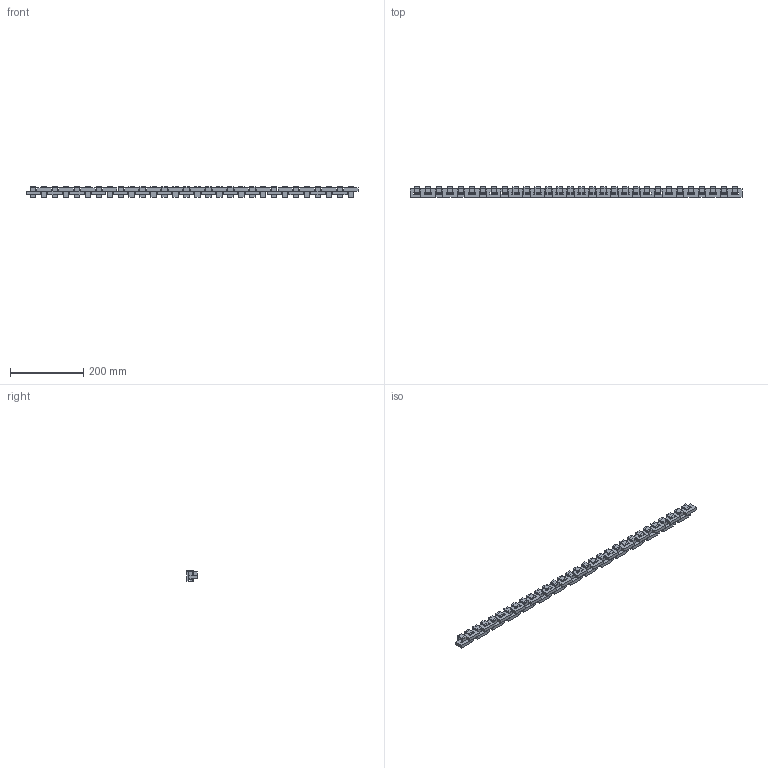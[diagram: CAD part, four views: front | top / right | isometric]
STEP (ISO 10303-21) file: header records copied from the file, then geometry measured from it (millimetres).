
FILE_DESCRIPTION(('Open CASCADE Model'),'2;1');
FILE_NAME('Open CASCADE Shape Model','2026-08-13T21:24:41',('Author'),( 'Open CASCADE'),'Open CASCADE STEP processor 7.7','Open CASCADE 7.7' ,'Unknown');
FILE_SCHEMA(('AUTOMOTIVE_DESIGN { 1 0 10303 214 1 1 1 1 }'));
Length unit declared in the file: millimetre
Products named in the file (211): Open CASCADE STEP translator 7.7 3; Open CASCADE STEP translator 7.7 3.1; Open CASCADE STEP translator 7.7 3.2; Open CASCADE STEP translator 7.7 3.3; Open CASCADE STEP translator 7.7 3.4; Open CASCADE STEP translator 7.7 3.5; Open CASCADE STEP translator 7.7 3.6; Open CASCADE STEP translator 7.7 3.7; Open CASCADE STEP translator 7.7 3.8; Open CASCADE STEP translator 7.7 3.9; Open CASCADE STEP translator 7.7 3.10; Open CASCADE STEP translator 7.7 3.11; Open CASCADE STEP translator 7.7 3.12; Open CASCADE STEP translator 7.7 3.13; Open CASCADE STEP translator 7.7 3.14; Open CASCADE STEP translator 7.7 3.15; Open CASCADE STEP translator 7.7 3.16; Open CASCADE STEP translator 7.7 3.17; Open CASCADE STEP translator 7.7 3.18; Open CASCADE STEP translator 7.7 3.19; Open CASCADE STEP translator 7.7 3.20; Open CASCADE STEP translator 7.7 3.21; Open CASCADE STEP translator 7.7 3.22; Open CASCADE STEP translator 7.7 3.23; Open CASCADE STEP translator 7.7 3.24; Open CASCADE STEP translator 7.7 3.25; Open CASCADE STEP translator 7.7 3.26; Open CASCADE STEP translator 7.7 3.27; Open CASCADE STEP translator 7.7 3.28; Open CASCADE STEP translator 7.7 3.29; Open CASCADE STEP translator 7.7 3.30; Open CASCADE STEP translator 7.7 3.31; Open CASCADE STEP translator 7.7 3.32; Open CASCADE STEP translator 7.7 3.33; Open CASCADE STEP translator 7.7 3.34; Open CASCADE STEP translator 7.7 3.35; Open CASCADE STEP translator 7.7 3.36; Open CASCADE STEP translator 7.7 3.37; Open CASCADE STEP translator 7.7 3.38; Open CASCADE STEP translator 7.7 3.39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
Assembly tree (210 placements, depth 2):
  Open CASCADE STEP translator 7.7 3
    Open CASCADE STEP translator 7.7 3.1
    Open CASCADE STEP translator 7.7 3.2
    Open CASCADE STEP translator 7.7 3.3
    Open CASCADE STEP translator 7.7 3.4
    Open CASCADE STEP translator 7.7 3.5
    Open CASCADE STEP translator 7.7 3.6
    Open CASCADE STEP translator 7.7 3.7
    Open CASCADE STEP translator 7.7 3.8
    Open CASCADE STEP translator 7.7 3.9
    Open CASCADE STEP translator 7.7 3.10
    Open CASCADE STEP translator 7.7 3.11
    Open CASCADE STEP translator 7.7 3.12
    Open CASCADE STEP translator 7.7 3.13
    Open CASCADE STEP translator 7.7 3.14
    Open CASCADE STEP translator 7.7 3.15
    Open CASCADE STEP translator 7.7 3.16
    Open CASCADE STEP translator 7.7 3.17
    Open CASCADE STEP translator 7.7 3.18
    Open CASCADE STEP translator 7.7 3.19
    Open CASCADE STEP translator 7.7 3.20
    Open CASCADE STEP translator 7.7 3.21
    Open CASCADE STEP translator 7.7 3.22
    Open CASCADE STEP translator 7.7 3.23
    Open CASCADE STEP translator 7.7 3.24
    Open CASCADE STEP translator 7.7 3.25
    Open CASCADE STEP translator 7.7 3.26
    Open CASCADE STEP translator 7.7 3.27
    Open CASCADE STEP translator 7.7 3.28
    Open CASCADE STEP translator 7.7 3.29
    Open CASCADE STEP translator 7.7 3.30
    Open CASCADE STEP translator 7.7 3.31
    Open CASCADE STEP translator 7.7 3.32
    Open CASCADE STEP translator 7.7 3.33
    Open CASCADE STEP translator 7.7 3.34
    Open CASCADE STEP translator 7.7 3.35
    Open CASCADE STEP translator 7.7 3.36
    Open CASCADE STEP translator 7.7 3.37
    Open CASCADE STEP translator 7.7 3.38
    Open CASCADE STEP translator 7.7 3.39
    Open CASCADE STEP translator 7.7 3.40
    Open CASCADE STEP translator 7.7 3.41
    Open CASCADE STEP translator 7.7 3.42
    Open CASCADE STEP translator 7.7 3.43
    Open CASCADE STEP translator 7.7 3.44
    Open CASCADE STEP translator 7.7 3.45
    Open CASCADE STEP translator 7.7 3.46
    Open CASCADE STEP translator 7.7 3.47
    Open CASCADE STEP translator 7.7 3.48
    Open CASCADE STEP translator 7.7 3.49
    Open CASCADE STEP translator 7.7 3.50
    Open CASCADE STEP translator 7.7 3.51
    Open CASCADE STEP translator 7.7 3.52
    Open CASCADE STEP translator 7.7 3.53
    Open CASCADE STEP translator 7.7 3.54
    Open CASCADE STEP translator 7.7 3.55
    Open CASCADE STEP translator 7.7 3.56
    Open CASCADE STEP translator 7.7 3.57
    Open CASCADE STEP translator 7.7 3.58
    Open CASCADE STEP translator 7.7 3.59
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Bounding box: 909 x 29.25 x 28 mm (x, y, z)
Volume: 369913.5 mm3; surface area: 217324.8 mm2
Topology: 210 solids, 210 shells, 1380 faces, 2880 edges, 1920 vertices
Faces by surface type: plane 1380
Entity records: 76336 total; most frequent: CARTESIAN_POINT 12631, DIRECTION 11342, LINE 8160, VECTOR 8160, ORIENTED_EDGE 5760, PCURVE 5760, DEFINITIONAL_REPRESENTATION 5760, EDGE_CURVE 2880
